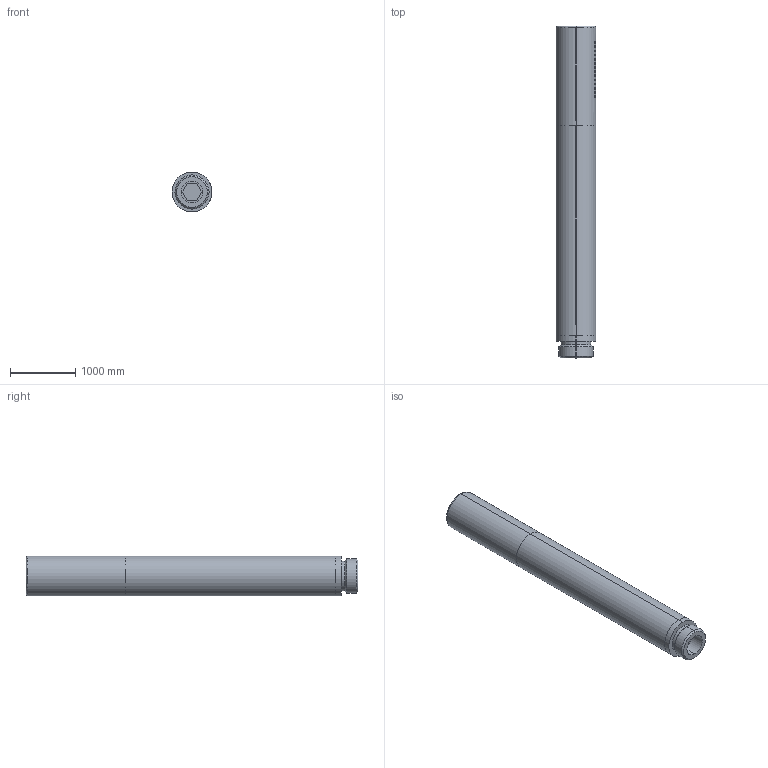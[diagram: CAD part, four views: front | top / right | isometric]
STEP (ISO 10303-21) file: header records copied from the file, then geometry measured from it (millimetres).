
FILE_DESCRIPTION(/* description */ (''),/* implementation_level */ '2;1');
FILE_NAME(/* name */ 'D:\Omnires\Export_Omnires\rys_step\5902539822564_stp.stp',/* time_stamp */ '2020-07-27T14:07:11+02:00',/* author */ (''),/* organization */ (''),/* preprocessor_version */ 'ST-DEVELOPER v18.1',/* originating_system */ 'Autodesk Inventor 2020',/* authorisation */ '');
FILE_SCHEMA (('AUTOMOTIVE_DESIGN { 1 0 10303 214 3 1 1 }'));
Products named in the file (1): 5902539822564_dwg
Bounding box: 609.6 x 5080 x 609.6 mm (x, y, z)
Surface area: 10656695.9 mm2 (no closed solid volume)
Topology: 0 solids, 165 shells, 165 faces, 790 edges, 790 vertices
Faces by surface type: cylinder 152, plane 7, cone 4, torus 2
Entity records: 79794 total; most frequent: CARTESIAN_POINT 73986, VERTEX_POINT 790, EDGE_CURVE 790, ORIENTED_EDGE 790, DIRECTION 754, B_SPLINE_CURVE_WITH_KNOTS 420, LINE 318, VECTOR 318
